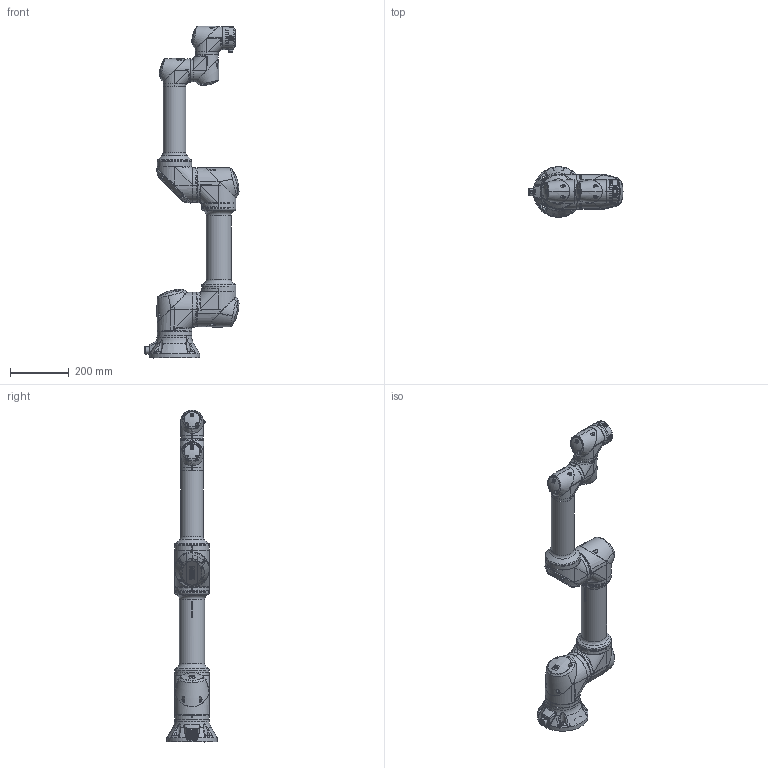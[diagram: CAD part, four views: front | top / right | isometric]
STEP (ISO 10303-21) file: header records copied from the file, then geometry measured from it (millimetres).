
FILE_DESCRIPTION(/* description */ (''),/* implementation_level */ '2;1');
FILE_NAME(/* name */ 'RB5-850E.stp',/* time_stamp */ '2024-01-17T16:11:52+09:00',/* author */ ('TK AHN'),/* organization */ (''),/* preprocessor_version */ 'ST-DEVELOPER v19.2',/* originating_system */ 'Autodesk Inventor 2023',/* authorisation */ '');
FILE_SCHEMA (('AUTOMOTIVE_DESIGN { 1 0 10303 214 3 1 1 }'));
Length unit declared in the file: millimetre
Products named in the file (8): RB5-850E; RB5-850E_BASE; RB5-850E_LINK1; RB5-850E_LINK2; RB5-850E_LINK3; RB5-850E_LINK4; RB5-850E_LINK5; RB5-850E_LINK6
Assembly tree (7 placements, depth 2):
  RB5-850E
    RB5-850E_BASE
    RB5-850E_LINK1
    RB5-850E_LINK2
    RB5-850E_LINK3
    RB5-850E_LINK4
    RB5-850E_LINK5
    RB5-850E_LINK6
Bounding box: 321.21 x 172.86 x 1134.35 mm (x, y, z)
Volume: 13442570.6 mm3; surface area: 1237093.6 mm2
Topology: 47 solids, 48 shells, 3556 faces, 9241 edges, 5951 vertices
Faces by surface type: plane 1410, cylinder 786, bspline 653, torus 340, cone 304, sphere 63
Full cylindrical faces by diameter (mm): 0.9 x16, 1.5 x10, 1.7 x20, 2.459 x1, 2.5 x16, 2.6 x10, 3 x4, 3.1 x10, 3.2 x10, 3.4 x4, 4.5 x4, 5 x2, 5.1 x26, 5.6 x4, 6 x9, 6.5 x1, 6.647 x6, 6.7 x1, 6.9 x1, 7.794 x1, 8.9 x2, 9 x2, 9.2 x1, 10 x1, 15.3 x1, 16 x1, 17.5 x1, 23 x1, 31.5 x1, 63 x1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
Entity records: 278713 total; most frequent: CARTESIAN_POINT 193454, ORIENTED_EDGE 18296, DIRECTION 15039, EDGE_CURVE 9148, VERTEX_POINT 5951, AXIS2_PLACEMENT_3D 5832, EDGE_LOOP 3875, STYLED_ITEM 3575
